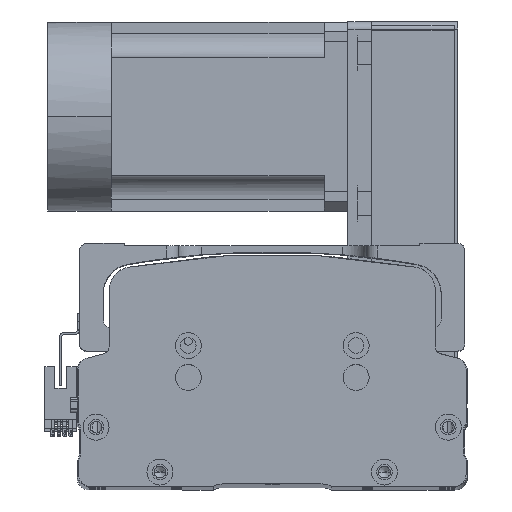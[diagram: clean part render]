
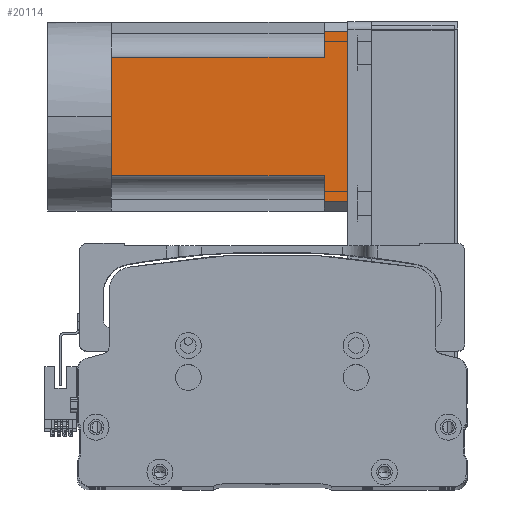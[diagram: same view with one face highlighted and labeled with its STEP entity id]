
A CAD part, top view. The second image highlights one B-rep face of the part: STEP entity #20114.
In plain terms, the highlighted planar face has unit normal (0, 0, 1) as drawn and (0, 0, -1) by its records, which use the part's own axes.
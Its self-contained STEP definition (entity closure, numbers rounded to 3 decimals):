
#1661 = VERTEX_POINT ( 'NONE', #42219 ) ;
#2557 = DIRECTION ( 'NONE',  ( -1., 0., 0. ) ) ;
#2897 = DIRECTION ( 'NONE',  ( 0., 1., 0. ) ) ;
#3008 = VERTEX_POINT ( 'NONE', #18703 ) ;
#3175 = LINE ( 'NONE', #5740, #16104 ) ;
#3578 = CARTESIAN_POINT ( 'NONE',  ( -40., 90., -40. ) ) ;
#5412 = FACE_OUTER_BOUND ( 'NONE', #10597, .T. ) ;
#5738 = ORIENTED_EDGE ( 'NONE', *, *, #57595, .T. ) ;
#5740 = CARTESIAN_POINT ( 'NONE',  ( -40., 90., -40. ) ) ;
#6084 = CARTESIAN_POINT ( 'NONE',  ( -40., 0., -40. ) ) ;
#7535 = CARTESIAN_POINT ( 'NONE',  ( -25., -27., -40. ) ) ;
#8255 = AXIS2_PLACEMENT_3D ( 'NONE', #12104, #31671, #2557 ) ;
#8475 = CARTESIAN_POINT ( 'NONE',  ( 36., 90., -40. ) ) ;
#10597 = EDGE_LOOP ( 'NONE', ( #26211, #14067, #22942, #29505, #57074, #19488, #29604, #49944, #5738 ) ) ;
#10732 = CARTESIAN_POINT ( 'NONE',  ( -36., 90., -40. ) ) ;
#11312 = VECTOR ( 'NONE', #46155, 1000. ) ;
#11611 = VERTEX_POINT ( 'NONE', #25663 ) ;
#12104 = CARTESIAN_POINT ( 'NONE',  ( -40., -27., -40. ) ) ;
#14067 = ORIENTED_EDGE ( 'NONE', *, *, #61887, .T. ) ;
#14559 = DIRECTION ( 'NONE',  ( -1., 0., 0. ) ) ;
#14871 = LINE ( 'NONE', #36953, #39231 ) ;
#15544 = DIRECTION ( 'NONE',  ( -1., 0., 0. ) ) ;
#16104 = VECTOR ( 'NONE', #15544, 1000. ) ;
#16524 = VECTOR ( 'NONE', #38033, 1000. ) ;
#17095 = VECTOR ( 'NONE', #58916, 1000. ) ;
#17229 = CARTESIAN_POINT ( 'NONE',  ( 36., 100., -40. ) ) ;
#18703 = CARTESIAN_POINT ( 'NONE',  ( -36., 100., -40. ) ) ;
#19488 = ORIENTED_EDGE ( 'NONE', *, *, #48866, .T. ) ;
#19790 = VERTEX_POINT ( 'NONE', #10732 ) ;
#19903 = EDGE_CURVE ( 'NONE', #26586, #19790, #3175, .T. ) ;
#20114 = ADVANCED_FACE ( 'NONE', ( #5412 ), #60843, .T. ) ;
#20180 = CARTESIAN_POINT ( 'NONE',  ( 25., -27., -40. ) ) ;
#21488 = LINE ( 'NONE', #6084, #47418 ) ;
#22942 = ORIENTED_EDGE ( 'NONE', *, *, #55923, .T. ) ;
#23341 = CARTESIAN_POINT ( 'NONE',  ( 36., -27., -40. ) ) ;
#25663 = CARTESIAN_POINT ( 'NONE',  ( 0., 0., -40. ) ) ;
#25670 = VERTEX_POINT ( 'NONE', #58557 ) ;
#26211 = ORIENTED_EDGE ( 'NONE', *, *, #50782, .F. ) ;
#26565 = EDGE_CURVE ( 'NONE', #1661, #26586, #27969, .T. ) ;
#26586 = VERTEX_POINT ( 'NONE', #46751 ) ;
#27969 = LINE ( 'NONE', #7535, #40917 ) ;
#27999 = VERTEX_POINT ( 'NONE', #60812 ) ;
#29456 = LINE ( 'NONE', #23341, #16524 ) ;
#29505 = ORIENTED_EDGE ( 'NONE', *, *, #47580, .T. ) ;
#29604 = ORIENTED_EDGE ( 'NONE', *, *, #26565, .T. ) ;
#30352 = LINE ( 'NONE', #3578, #54758 ) ;
#31671 = DIRECTION ( 'NONE',  ( 0., 0., -1. ) ) ;
#32040 = DIRECTION ( 'NONE',  ( 0., 1., 0. ) ) ;
#35034 = EDGE_CURVE ( 'NONE', #25670, #11611, #38466, .T. ) ;
#36953 = CARTESIAN_POINT ( 'NONE',  ( -36., -27., -40. ) ) ;
#38033 = DIRECTION ( 'NONE',  ( 0., -1., 0. ) ) ;
#38175 = VERTEX_POINT ( 'NONE', #17229 ) ;
#38288 = VERTEX_POINT ( 'NONE', #8475 ) ;
#38466 = LINE ( 'NONE', #48620, #49916 ) ;
#39231 = VECTOR ( 'NONE', #32040, 1000. ) ;
#40141 = DIRECTION ( 'NONE',  ( -1., 0., 0. ) ) ;
#40917 = VECTOR ( 'NONE', #2897, 1000. ) ;
#41471 = CARTESIAN_POINT ( 'NONE',  ( -40., 100., -40. ) ) ;
#42219 = CARTESIAN_POINT ( 'NONE',  ( -25., 0., -40. ) ) ;
#42990 = LINE ( 'NONE', #20180, #17095 ) ;
#46155 = DIRECTION ( 'NONE',  ( -1., 0., 0. ) ) ;
#46751 = CARTESIAN_POINT ( 'NONE',  ( -25., 90., -40. ) ) ;
#47418 = VECTOR ( 'NONE', #40141, 1000. ) ;
#47580 = EDGE_CURVE ( 'NONE', #27999, #25670, #42990, .T. ) ;
#48620 = CARTESIAN_POINT ( 'NONE',  ( -40., 0., -40. ) ) ;
#48634 = LINE ( 'NONE', #41471, #11312 ) ;
#48866 = EDGE_CURVE ( 'NONE', #11611, #1661, #21488, .T. ) ;
#49916 = VECTOR ( 'NONE', #14559, 1000. ) ;
#49944 = ORIENTED_EDGE ( 'NONE', *, *, #19903, .T. ) ;
#50782 = EDGE_CURVE ( 'NONE', #38175, #3008, #48634, .T. ) ;
#54758 = VECTOR ( 'NONE', #61864, 1000. ) ;
#55923 = EDGE_CURVE ( 'NONE', #38288, #27999, #30352, .T. ) ;
#57074 = ORIENTED_EDGE ( 'NONE', *, *, #35034, .T. ) ;
#57595 = EDGE_CURVE ( 'NONE', #19790, #3008, #14871, .T. ) ;
#58557 = CARTESIAN_POINT ( 'NONE',  ( 25., 0., -40. ) ) ;
#58916 = DIRECTION ( 'NONE',  ( 0., -1., 0. ) ) ;
#60812 = CARTESIAN_POINT ( 'NONE',  ( 25., 90., -40. ) ) ;
#60843 = PLANE ( 'NONE',  #8255 ) ;
#61864 = DIRECTION ( 'NONE',  ( -1., 0., 0. ) ) ;
#61887 = EDGE_CURVE ( 'NONE', #38175, #38288, #29456, .T. ) ;
